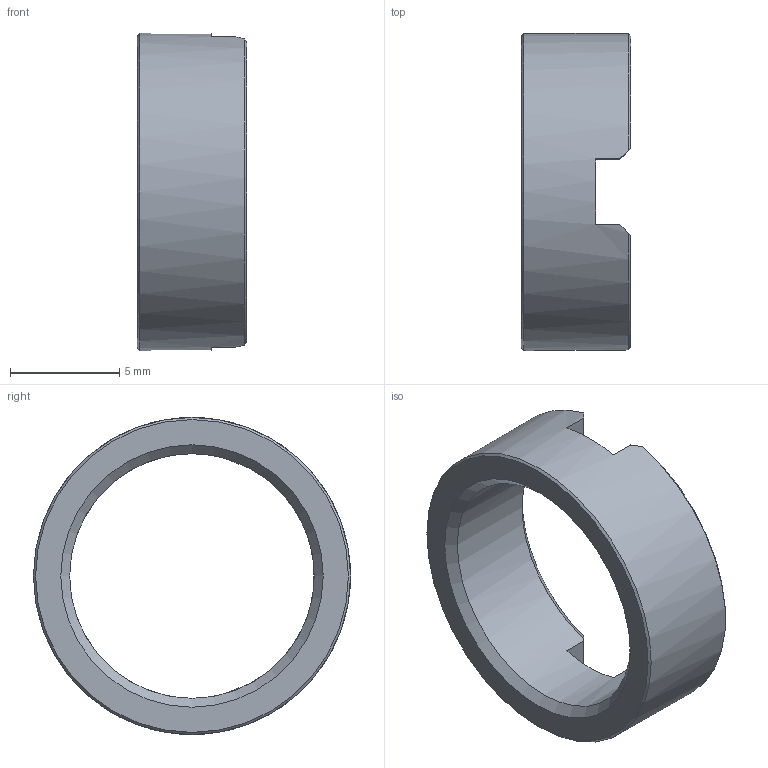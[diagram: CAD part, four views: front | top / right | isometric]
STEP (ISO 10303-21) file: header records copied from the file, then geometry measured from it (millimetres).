
FILE_DESCRIPTION(/* description */ (''),/* implementation_level */ '2;1');
FILE_NAME(/* name */ 'C:\Temp\WebData\TM\TMline\10036512.stp',/* time_stamp */ '2025-08-05T09:34:11+02:00',/* author */ (''),/* organization */ (''),/* preprocessor_version */ 'ST-DEVELOPER v18.1',/* originating_system */ 'Autodesk Inventor 2020',/* authorisation */ '');
FILE_SCHEMA (('AUTOMOTIVE_DESIGN { 1 0 10303 214 3 1 1 }'));
Length unit declared in the file: millimetre
Products named in the file (1): 10036512
Bounding box: 5 x 14.5 x 14.5 mm (x, y, z)
Volume: 311.4 mm3; surface area: 506.9 mm2
Topology: 1 solids, 1 shells, 47 faces, 134 edges, 89 vertices
Faces by surface type: plane 30, cylinder 11, cone 6
Full cylindrical faces by diameter (mm): 11.188 x1, 14.5 x1
Entity records: 1632 total; most frequent: CARTESIAN_POINT 287, ORIENTED_EDGE 268, DIRECTION 267, EDGE_CURVE 134, AXIS2_PLACEMENT_3D 93, VERTEX_POINT 89, LINE 81, VECTOR 81
